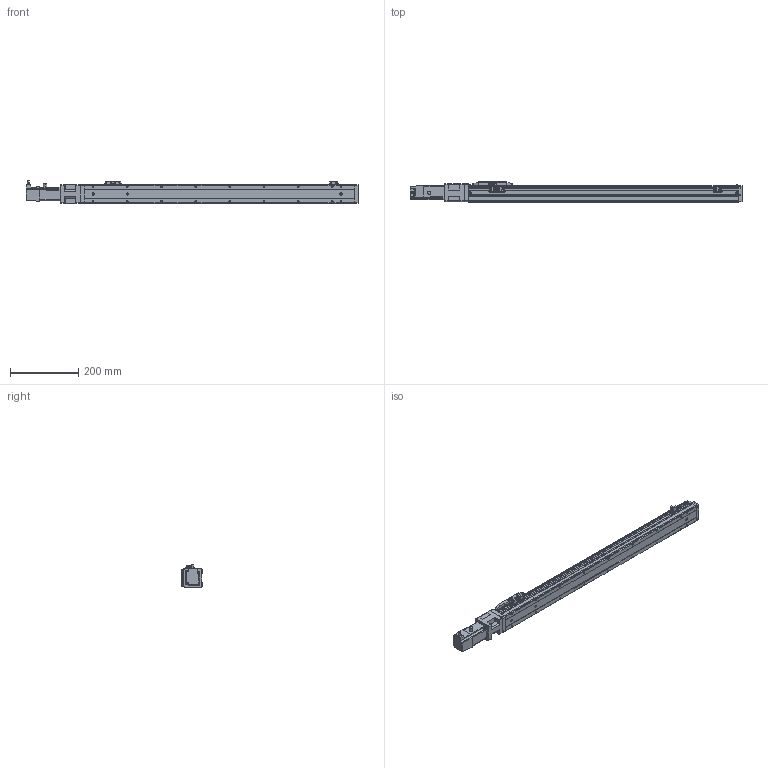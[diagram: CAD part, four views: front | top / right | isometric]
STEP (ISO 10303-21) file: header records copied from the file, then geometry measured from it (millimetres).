
FILE_DESCRIPTION (( 'STEP AP203' ), '1' );
FILE_NAME ('CTH5-L10-S650-BC-C10(¼ò).STEP', '2023-02-04T02:07:08', ( '' ), ( '' ), 'SwSTEP 2.0', 'SolidWorks 2018', '' );
FILE_SCHEMA (( 'CONFIG_CONTROL_DESIGN' ));
Length unit declared in the file: millimetre
Products named in the file (21): M3｡｣; CTH5萇儂釱欶; CTH5菁釱-L790; CTH5綴耜啣; CTH5ヶ耜啣(潠); 100W萇儂; CTH5耜晚蹟隊; CTH5-L10-S650-BC-C10(潠); M3; CTH嫖萇羲壽假蚾啣; 葩璃 蚾饜极13^CTH8-L10-S50-BM-C40(潠)1; CTH5-BC-03; T10-p1; CTH5耜晚蹟隊-1; 嫖萇羲壽郪磁1; 内六角圆柱头螺钉M3-2; PM-Y45; CTH5覜茼え; CTH5萇儂釱; hex nuts, style 1-grades ab gb_GB_FASTENER_NUT_SNAB1 M3-N; CTH5賑怢
Assembly tree (37 placements, depth 3):
  CTH5-L10-S650-BC-C10(潠)
    CTH5綴耜啣
    CTH5賑怢
    CTH5ヶ耜啣(潠)
    CTH5菁釱-L790
    CTH5耜晚蹟隊  x2
    CTH5萇儂釱
      CTH5-BC-03
    CTH5萇儂釱欶
    100W萇儂
      T10-p1
    嫖萇羲壽郪磁1  x2
      CTH嫖萇羲壽假蚾啣
      PM-Y45
      M3｡｣
      内六角圆柱头螺钉M3-2
      hex nuts, style 1-grades ab gb_GB_FASTENER_NUT_SNAB1 M3-N
    CTH5覜茼え
    葩璃 蚾饜极13^CTH8-L10-S50-BM-C40(潠)1
      CTH嫖萇羲壽假蚾啣
      PM-Y45
      内六角圆柱头螺钉M3-2  x2
      M3｡｣  x2
      hex nuts, style 1-grades ab gb_GB_FASTENER_NUT_SNAB1 M3-N  x2
    M3  x2
    CTH5耜晚蹟隊-1  x4
Bounding box: 971.1 x 60 x 65.7 mm (x, y, z)
Volume: 2025793.5 mm3; surface area: 286612 mm2
Topology: 40 solids, 40 shells, 1551 faces, 3880 edges, 2498 vertices
Faces by surface type: plane 848, cylinder 450, cone 191, torus 44, bspline 18
Entity records: 35049 total; most frequent: CARTESIAN_POINT 6436, DIRECTION 5556, ORIENTED_EDGE 5308, EDGE_CURVE 2654, AXIS2_PLACEMENT_3D 1925, VECTOR 1706, LINE 1706, VERTEX_POINT 1704
